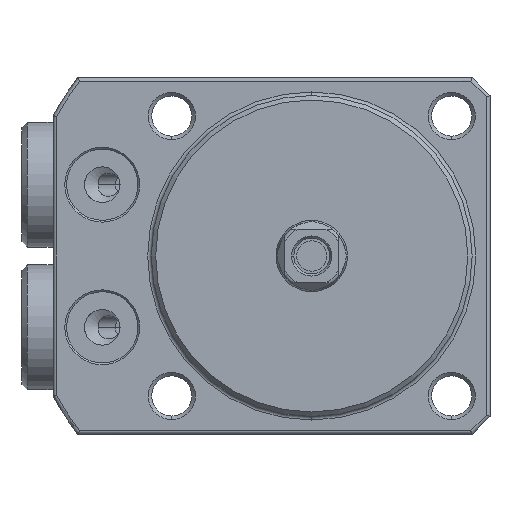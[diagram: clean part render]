
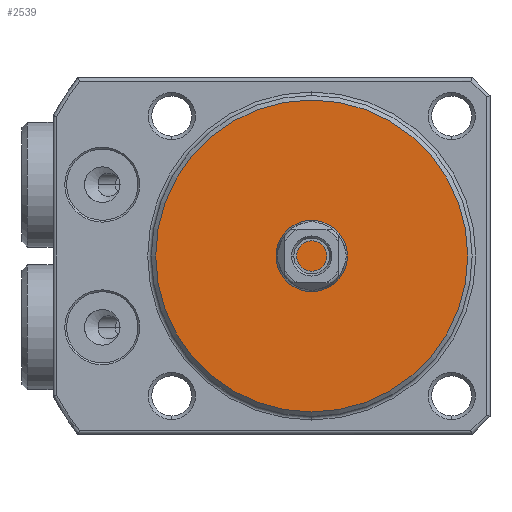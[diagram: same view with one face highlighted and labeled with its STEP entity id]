
A CAD part, front view. The second image highlights one B-rep face of the part: STEP entity #2539.
In plain terms, the highlighted planar face has unit normal (0, -1, 0).
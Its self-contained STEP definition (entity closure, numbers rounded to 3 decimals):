
#1539=PLANE('',#7049);
#2539=ADVANCED_FACE('',(#2924),#1539,.F.);
#2924=FACE_OUTER_BOUND('',#3263,.T.);
#3263=EDGE_LOOP('',(#4059));
#4059=ORIENTED_EDGE('',*,*,#5899,.T.);
#5306=VERTEX_POINT('',#9927);
#5899=EDGE_CURVE('',#5306,#5306,#6584,.T.);
#6584=CIRCLE('',#7048,17.5);
#7048=AXIS2_PLACEMENT_3D('',#9926,#8098,#8099);
#7049=AXIS2_PLACEMENT_3D('',#9928,#8100,#8101);
#8098=DIRECTION('',(0.,-1.,0.));
#8099=DIRECTION('',(0.,0.,1.));
#8100=DIRECTION('',(0.,1.,0.));
#8101=DIRECTION('',(0.,0.,-1.));
#9926=CARTESIAN_POINT('',(0.,-6.,0.));
#9927=CARTESIAN_POINT('',(0.,-6.,17.5));
#9928=CARTESIAN_POINT('',(11.75,-6.,0.));
